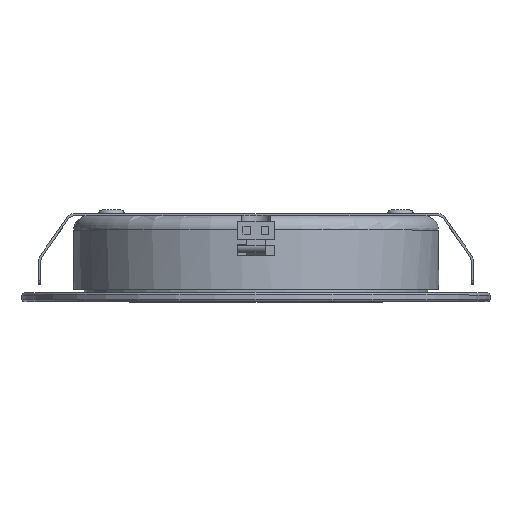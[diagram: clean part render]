
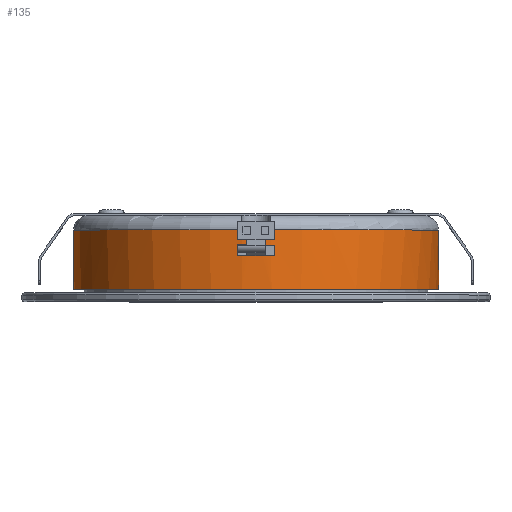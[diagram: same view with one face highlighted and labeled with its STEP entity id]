
A CAD part, top view. The second image highlights one B-rep face of the part: STEP entity #135.
In plain terms, the highlighted cylindrical face has radius 25.3 mm (diameter 50.6 mm), a full revolution.
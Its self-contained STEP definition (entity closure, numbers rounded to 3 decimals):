
#50=CYLINDRICAL_SURFACE('',#1787,25.3);
#76=B_SPLINE_CURVE_WITH_KNOTS('',3,(#2471,#2472,#2473,#2474,#2475,#2476,
#2477,#2478,#2479,#2480),.UNSPECIFIED.,.F.,.F.,(4,3,3,4),(0.,0.411,
0.89,1.),.UNSPECIFIED.);
#77=B_SPLINE_CURVE_WITH_KNOTS('',3,(#2490,#2491,#2492,#2493,#2494,#2495,
#2496,#2497,#2498,#2499),.UNSPECIFIED.,.F.,.F.,(4,3,3,4),(0.,0.479,
0.958,1.),.UNSPECIFIED.);
#86=FACE_BOUND('',#382,.T.);
#87=FACE_BOUND('',#383,.T.);
#135=ADVANCED_FACE('',(#86,#87),#50,.T.);
#382=EDGE_LOOP('',(#836,#837,#838,#839,#840,#841,#842,#843));
#383=EDGE_LOOP('',(#844));
#507=LINE('',#2482,#668);
#508=LINE('',#2486,#669);
#668=VECTOR('',#1969,1.);
#669=VECTOR('',#1972,1.);
#836=ORIENTED_EDGE('',*,*,#1476,.F.);
#837=ORIENTED_EDGE('',*,*,#1473,.F.);
#838=ORIENTED_EDGE('',*,*,#1477,.T.);
#839=ORIENTED_EDGE('',*,*,#1478,.F.);
#840=ORIENTED_EDGE('',*,*,#1479,.F.);
#841=ORIENTED_EDGE('',*,*,#1480,.F.);
#842=ORIENTED_EDGE('',*,*,#1481,.F.);
#843=ORIENTED_EDGE('',*,*,#1482,.F.);
#844=ORIENTED_EDGE('',*,*,#1475,.T.);
#1307=VERTEX_POINT('',#2459);
#1309=VERTEX_POINT('',#2463);
#1311=VERTEX_POINT('',#2469);
#1312=VERTEX_POINT('',#2481);
#1313=VERTEX_POINT('',#2483);
#1314=VERTEX_POINT('',#2485);
#1315=VERTEX_POINT('',#2487);
#1316=VERTEX_POINT('',#2489);
#1317=VERTEX_POINT('',#2500);
#1473=EDGE_CURVE('',#1309,#1307,#1708,.T.);
#1475=EDGE_CURVE('',#1311,#1311,#1710,.T.);
#1476=EDGE_CURVE('',#1307,#1312,#76,.T.);
#1477=EDGE_CURVE('',#1309,#1313,#507,.T.);
#1478=EDGE_CURVE('',#1314,#1313,#1711,.T.);
#1479=EDGE_CURVE('',#1315,#1314,#508,.T.);
#1480=EDGE_CURVE('',#1316,#1315,#1712,.T.);
#1481=EDGE_CURVE('',#1317,#1316,#77,.T.);
#1482=EDGE_CURVE('',#1312,#1317,#1713,.T.);
#1708=CIRCLE('',#1779,25.3);
#1710=CIRCLE('',#1782,25.3);
#1711=CIRCLE('',#1784,25.3);
#1712=CIRCLE('',#1785,25.3);
#1713=CIRCLE('',#1786,25.3);
#1779=AXIS2_PLACEMENT_3D('',#2464,#1959,#1960);
#1782=AXIS2_PLACEMENT_3D('',#2468,#1965,#1966);
#1784=AXIS2_PLACEMENT_3D('',#2484,#1970,#1971);
#1785=AXIS2_PLACEMENT_3D('',#2488,#1973,#1974);
#1786=AXIS2_PLACEMENT_3D('',#2501,#1975,#1976);
#1787=AXIS2_PLACEMENT_3D('',#2502,#1977,#1978);
#1959=DIRECTION('',(0.,1.,0.));
#1960=DIRECTION('',(-0.079,0.,0.997));
#1965=DIRECTION('',(0.,1.,0.));
#1966=DIRECTION('',(1.,0.,0.));
#1969=DIRECTION('',(0.,1.,0.));
#1970=DIRECTION('',(0.,1.,0.));
#1971=DIRECTION('',(1.,0.,0.));
#1972=DIRECTION('',(0.,1.,0.));
#1973=DIRECTION('',(0.,1.,0.));
#1974=DIRECTION('',(-0.079,0.,0.997));
#1975=DIRECTION('',(0.,1.,0.));
#1976=DIRECTION('',(0.,0.,-1.));
#1977=DIRECTION('',(0.,1.,0.));
#1978=DIRECTION('',(-1.,0.,0.));
#2459=CARTESIAN_POINT('',(-1.53,7.2,25.254));
#2463=CARTESIAN_POINT('',(-2.,7.2,25.221));
#2464=CARTESIAN_POINT('',(0.,7.2,0.));
#2468=CARTESIAN_POINT('',(0.,0.,0.));
#2469=CARTESIAN_POINT('',(25.3,0.,0.));
#2471=CARTESIAN_POINT('',(-1.53,7.2,25.254));
#2472=CARTESIAN_POINT('',(-1.453,7.135,25.258));
#2473=CARTESIAN_POINT('',(-1.366,7.08,25.263));
#2474=CARTESIAN_POINT('',(-1.274,7.039,25.268));
#2475=CARTESIAN_POINT('',(-1.166,6.992,25.273));
#2476=CARTESIAN_POINT('',(-1.049,6.962,25.279));
#2477=CARTESIAN_POINT('',(-0.932,6.953,25.283));
#2478=CARTESIAN_POINT('',(-0.905,6.951,25.284));
#2479=CARTESIAN_POINT('',(-0.877,6.95,25.285));
#2480=CARTESIAN_POINT('',(-0.85,6.95,25.286));
#2481=CARTESIAN_POINT('',(-0.85,6.95,25.286));
#2482=CARTESIAN_POINT('',(-2.,7.2,25.221));
#2483=CARTESIAN_POINT('',(-2.,8.2,25.221));
#2484=CARTESIAN_POINT('',(0.,8.2,0.));
#2485=CARTESIAN_POINT('',(2.,8.2,25.221));
#2486=CARTESIAN_POINT('',(2.,7.2,25.221));
#2487=CARTESIAN_POINT('',(2.,7.2,25.221));
#2488=CARTESIAN_POINT('',(0.,7.2,0.));
#2489=CARTESIAN_POINT('',(1.53,7.2,25.254));
#2490=CARTESIAN_POINT('',(0.85,6.95,25.286));
#2491=CARTESIAN_POINT('',(0.968,6.95,25.282));
#2492=CARTESIAN_POINT('',(1.087,6.97,25.277));
#2493=CARTESIAN_POINT('',(1.198,7.009,25.272));
#2494=CARTESIAN_POINT('',(1.309,7.048,25.266));
#2495=CARTESIAN_POINT('',(1.414,7.107,25.261));
#2496=CARTESIAN_POINT('',(1.506,7.18,25.255));
#2497=CARTESIAN_POINT('',(1.514,7.187,25.255));
#2498=CARTESIAN_POINT('',(1.522,7.193,25.254));
#2499=CARTESIAN_POINT('',(1.53,7.2,25.254));
#2500=CARTESIAN_POINT('',(0.85,6.95,25.286));
#2501=CARTESIAN_POINT('',(0.,6.95,0.));
#2502=CARTESIAN_POINT('',(0.,0.,0.));
